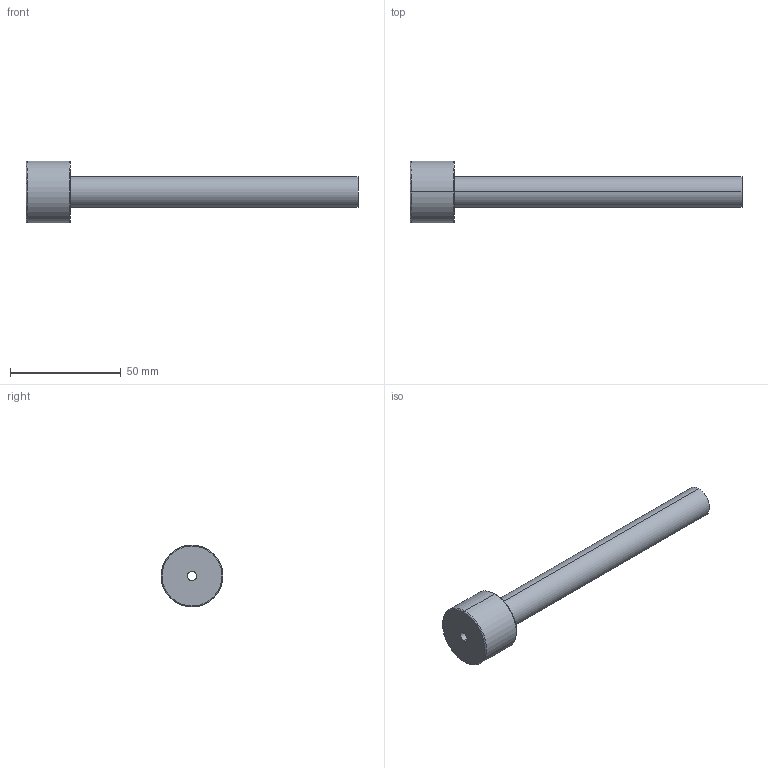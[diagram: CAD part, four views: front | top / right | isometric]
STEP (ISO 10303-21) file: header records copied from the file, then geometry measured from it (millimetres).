
FILE_DESCRIPTION(('CATIA V5 STEP Exchange'),'2;1');
FILE_NAME('C:\Users\Utente\Desktop\IO LAVORO\3D X SITO CF\X SITO\PLASTICA\3D files 367\367F-14X150.stp','2021-03-24T15:56:44+00:00',('none'),('none'),'CATIA Version 5 Release 20 GA (IN-10)','CATIA V5 STEP AP203','none');
FILE_SCHEMA(('CONFIG_CONTROL_DESIGN'));
Length unit declared in the file: millimetre
Products named in the file (1): 367F-14X150
Bounding box: 150 x 28 x 28 mm (x, y, z)
Volume: 23736.3 mm3; surface area: 12418.6 mm2
Topology: 1 solids, 1 shells, 13 faces, 42 edges, 32 vertices
Faces by surface type: torus 4, cylinder 4, plane 3, cone 2
Entity records: 614 total; most frequent: CARTESIAN_POINT 200, ORIENTED_EDGE 84, DIRECTION 60, AXIS2_PLACEMENT_3D 42, EDGE_CURVE 42, VERTEX_POINT 32, CIRCLE 28, EDGE_LOOP 16
